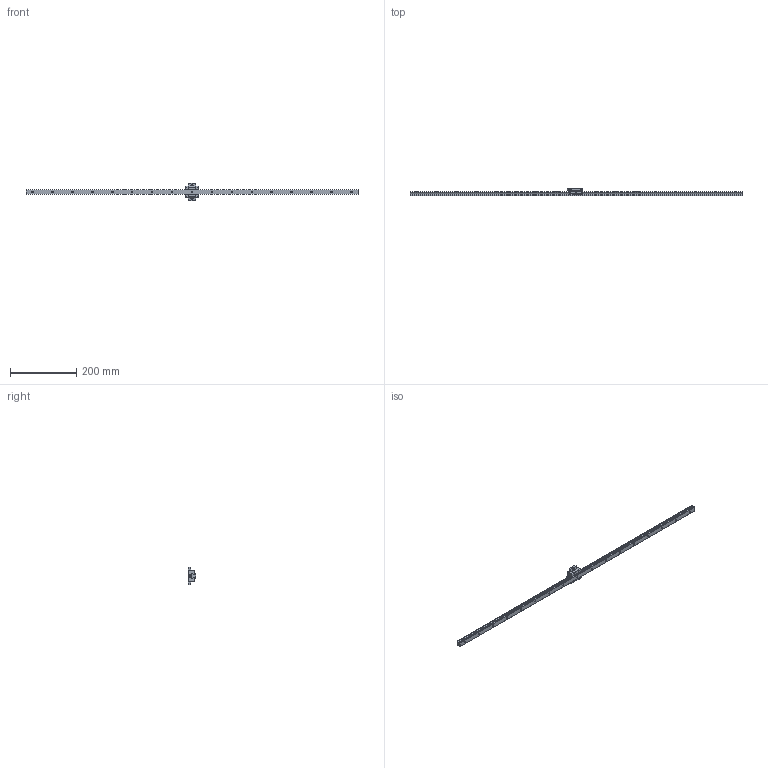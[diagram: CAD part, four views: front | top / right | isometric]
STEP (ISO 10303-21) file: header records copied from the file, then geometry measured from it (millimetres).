
FILE_DESCRIPTION(/* description */ ('STEP AP214'),/* implementation_level */ '2;1');
FILE_NAME(/* name */ 'SSR15XSB-Y1SS-1000LY_G20_0_PB1021B_479-85_0_0_0',/* time_stamp */ '2023-08-10T09:16:12+02:00',/* author */ ('License CC BY-ND 4.0'),/* organization */ ('CADENAS'),/* preprocessor_version */ 'ST-DEVELOPER v19.3',/* originating_system */ 'PARTsolutions',/* authorisation */ ' ');
FILE_SCHEMA (('AUTOMOTIVE_DESIGN {1 0 10303 214 3 1 1}'));
Length unit declared in the file: millimetre
Products named in the file (4): SSR15XSB-Y1SS-1000LY_G20_0_PB1021B_479-85_0_0_0_; PB1021B-SSR_grease_nipple_joint; SSR15XSB-YSSPB1021B Slide15-35; SSR15XSB-Y100020Y Track
Assembly tree (3 placements, depth 2):
  SSR15XSB-Y1SS-1000LY_G20_0_PB1021B_479-85_0_0_0_
    PB1021B-SSR_grease_nipple_joint
    SSR15XSB-YSSPB1021B Slide15-35
    SSR15XSB-Y100020Y Track
Bounding box: 1000 x 24 x 52 mm (x, y, z)
Volume: 187108.1 mm3; surface area: 68965 mm2
Topology: 3 solids, 3 shells, 225 faces, 576 edges, 382 vertices
Faces by surface type: plane 147, cylinder 77, sphere 1
Full cylindrical faces by diameter (mm): 3 x4, 4 x3, 4.5 x19, 6 x1, 7.5 x18
Entity records: 6751 total; most frequent: CARTESIAN_POINT 1153, DIRECTION 1146, ORIENTED_EDGE 1052, EDGE_CURVE 526, AXIS2_PLACEMENT_3D 395, VERTEX_POINT 378, LINE 356, VECTOR 356
